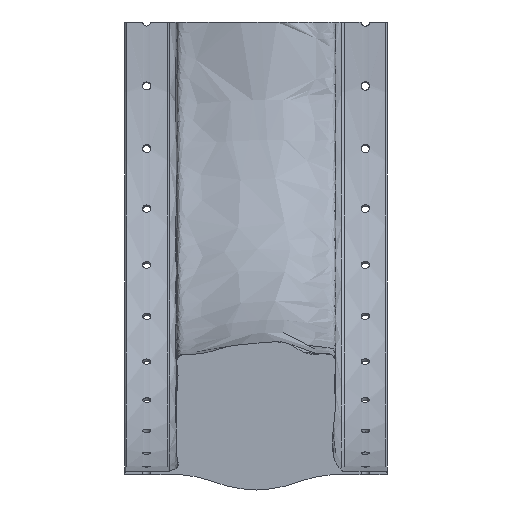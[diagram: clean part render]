
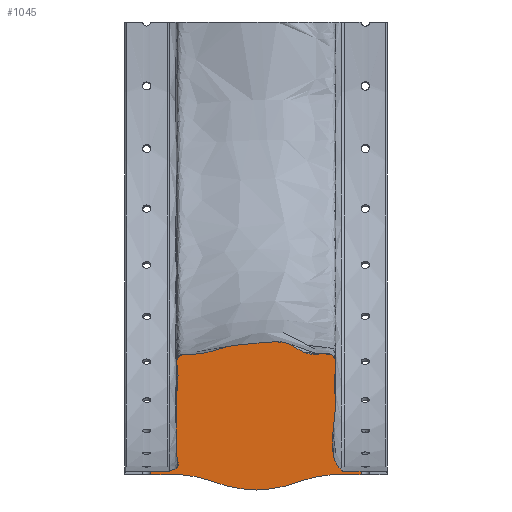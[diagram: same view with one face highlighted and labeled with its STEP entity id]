
A CAD part, front view. The second image highlights one B-rep face of the part: STEP entity #1045.
In plain terms, the highlighted planar face has unit normal (0, -1, 0).
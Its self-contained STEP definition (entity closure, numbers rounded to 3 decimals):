
#25=PLANE('',#1105);
#73=CIRCLE('',#1106,36.741);
#74=CIRCLE('',#1107,40.697);
#75=CIRCLE('',#1108,40.697);
#76=CIRCLE('',#1109,36.741);
#77=CIRCLE('',#1110,1.);
#78=CIRCLE('',#1111,1.);
#102=FACE_OUTER_BOUND('',#155,.T.);
#155=EDGE_LOOP('',(#724,#725,#726,#727,#728,#729,#730,#731,#732,#733,#734,
#735,#736));
#248=B_SPLINE_CURVE_WITH_KNOTS('',3,(#1837,#1838,#1839,#1840,#1841,#1842,
#1843,#1844,#1845,#1846,#1847,#1848,#1849,#1850,#1851,#1852,#1853,#1854,
#1855,#1856,#1857,#1858,#1859),.UNSPECIFIED.,.F.,.F.,(4,1,1,1,1,1,1,1,1,
1,1,1,1,1,1,1,1,1,1,1,4),(0.,0.289,0.546,1.255,
2.316,3.193,3.701,3.952,4.435,
5.128,6.153,7.172,7.49,7.896,
8.341,8.601,9.089,10.094,11.031,
12.088,12.147),.UNSPECIFIED.);
#316=LINE('',#1384,#360);
#320=LINE('',#1434,#364);
#322=LINE('',#1829,#366);
#323=LINE('',#1831,#367);
#324=LINE('',#1833,#368);
#325=LINE('',#1862,#369);
#360=VECTOR('',#1175,10.);
#364=VECTOR('',#1185,10.);
#366=VECTOR('',#1201,10.);
#367=VECTOR('',#1202,10.);
#368=VECTOR('',#1203,10.);
#369=VECTOR('',#1208,10.);
#405=VERTEX_POINT('',#1363);
#406=VERTEX_POINT('',#1383);
#412=VERTEX_POINT('',#1432);
#434=VERTEX_POINT('',#1820);
#435=VERTEX_POINT('',#1822);
#436=VERTEX_POINT('',#1824);
#437=VERTEX_POINT('',#1826);
#438=VERTEX_POINT('',#1828);
#439=VERTEX_POINT('',#1830);
#440=VERTEX_POINT('',#1832);
#441=VERTEX_POINT('',#1834);
#442=VERTEX_POINT('',#1836);
#443=VERTEX_POINT('',#1860);
#527=EDGE_CURVE('',#406,#405,#316,.T.);
#535=EDGE_CURVE('',#412,#405,#320,.T.);
#558=EDGE_CURVE('',#412,#434,#73,.T.);
#559=EDGE_CURVE('',#435,#434,#74,.T.);
#560=EDGE_CURVE('',#436,#435,#75,.T.);
#561=EDGE_CURVE('',#436,#437,#76,.T.);
#562=EDGE_CURVE('',#437,#438,#322,.T.);
#563=EDGE_CURVE('',#438,#439,#323,.T.);
#564=EDGE_CURVE('',#439,#440,#324,.T.);
#565=EDGE_CURVE('',#440,#441,#77,.T.);
#566=EDGE_CURVE('',#442,#441,#248,.T.);
#567=EDGE_CURVE('',#442,#443,#78,.T.);
#568=EDGE_CURVE('',#406,#443,#325,.T.);
#724=ORIENTED_EDGE('',*,*,#527,.T.);
#725=ORIENTED_EDGE('',*,*,#535,.F.);
#726=ORIENTED_EDGE('',*,*,#558,.T.);
#727=ORIENTED_EDGE('',*,*,#559,.F.);
#728=ORIENTED_EDGE('',*,*,#560,.F.);
#729=ORIENTED_EDGE('',*,*,#561,.T.);
#730=ORIENTED_EDGE('',*,*,#562,.T.);
#731=ORIENTED_EDGE('',*,*,#563,.T.);
#732=ORIENTED_EDGE('',*,*,#564,.T.);
#733=ORIENTED_EDGE('',*,*,#565,.T.);
#734=ORIENTED_EDGE('',*,*,#566,.F.);
#735=ORIENTED_EDGE('',*,*,#567,.T.);
#736=ORIENTED_EDGE('',*,*,#568,.F.);
#1045=ADVANCED_FACE('',(#102),#25,.F.);
#1105=AXIS2_PLACEMENT_3D('',#1819,#1191,#1192);
#1106=AXIS2_PLACEMENT_3D('',#1821,#1193,#1194);
#1107=AXIS2_PLACEMENT_3D('',#1823,#1195,#1196);
#1108=AXIS2_PLACEMENT_3D('',#1825,#1197,#1198);
#1109=AXIS2_PLACEMENT_3D('',#1827,#1199,#1200);
#1110=AXIS2_PLACEMENT_3D('',#1835,#1204,#1205);
#1111=AXIS2_PLACEMENT_3D('',#1861,#1206,#1207);
#1175=DIRECTION('',(0.,0.,-1.));
#1185=DIRECTION('',(-1.,0.,0.));
#1191=DIRECTION('center_axis',(0.,1.,0.));
#1192=DIRECTION('ref_axis',(1.,0.,0.));
#1193=DIRECTION('center_axis',(0.,1.,0.));
#1194=DIRECTION('ref_axis',(-0.068,0.,0.998));
#1195=DIRECTION('center_axis',(0.,1.,0.));
#1196=DIRECTION('ref_axis',(-0.024,0.,-1.));
#1197=DIRECTION('center_axis',(0.,1.,0.));
#1198=DIRECTION('ref_axis',(0.361,0.,-0.932));
#1199=DIRECTION('center_axis',(0.,1.,0.));
#1200=DIRECTION('ref_axis',(-0.332,0.,0.943));
#1201=DIRECTION('',(1.,0.,0.));
#1202=DIRECTION('',(0.,0.,1.));
#1203=DIRECTION('',(-1.,0.,0.));
#1204=DIRECTION('center_axis',(0.,1.,0.));
#1205=DIRECTION('ref_axis',(0.,0.,-1.));
#1206=DIRECTION('center_axis',(0.,1.,0.));
#1207=DIRECTION('ref_axis',(1.,0.,0.));
#1208=DIRECTION('',(1.,0.,0.));
#1363=CARTESIAN_POINT('',(3569.237,0.,-2125.946));
#1383=CARTESIAN_POINT('',(3569.237,0.,-2124.943));
#1384=CARTESIAN_POINT('',(3569.237,0.,-2124.943));
#1432=CARTESIAN_POINT('',(3573.363,0.,-2125.946));
#1434=CARTESIAN_POINT('',(3573.363,0.,-2125.946));
#1819=CARTESIAN_POINT('Origin',(3601.737,0.,-2107.384));
#1820=CARTESIAN_POINT('',(3588.05,0.,-2127.944));
#1821=CARTESIAN_POINT('Origin',(3575.855,0.,-2162.602));
#1822=CARTESIAN_POINT('',(3601.8,0.,-2130.685));
#1823=CARTESIAN_POINT('Origin',(3602.76,0.,-2089.999));
#1824=CARTESIAN_POINT('',(3615.55,0.,-2127.944));
#1825=CARTESIAN_POINT('Origin',(3600.839,0.,-2089.999));
#1826=CARTESIAN_POINT('',(3630.237,0.,-2125.946));
#1827=CARTESIAN_POINT('Origin',(3627.744,0.,-2162.602));
#1828=CARTESIAN_POINT('',(3634.187,0.,-2125.946));
#1829=CARTESIAN_POINT('',(3630.237,0.,-2125.946));
#1830=CARTESIAN_POINT('',(3634.187,0.,-2124.943));
#1831=CARTESIAN_POINT('',(3634.187,0.,-2128.943));
#1832=CARTESIAN_POINT('',(3628.987,0.,-2124.943));
#1833=CARTESIAN_POINT('',(3636.737,0.,-2124.943));
#1834=CARTESIAN_POINT('',(3628.201,0.,-2124.562));
#1835=CARTESIAN_POINT('Origin',(3628.987,0.,-2123.943));
#1836=CARTESIAN_POINT('',(3575.031,0.,-2124.782));
#1837=CARTESIAN_POINT('Ctrl Pts',(3575.031,0.,-2124.782));
#1838=CARTESIAN_POINT('Ctrl Pts',(3576.141,0.,-2124.477));
#1839=CARTESIAN_POINT('Ctrl Pts',(3578.236,0.,-2123.901));
#1840=CARTESIAN_POINT('Ctrl Pts',(3576.772,0.,-2119.101));
#1841=CARTESIAN_POINT('Ctrl Pts',(3577.641,0.,-2112.829));
#1842=CARTESIAN_POINT('Ctrl Pts',(3576.288,0.,-2103.464));
#1843=CARTESIAN_POINT('Ctrl Pts',(3578.333,0.,-2096.375));
#1844=CARTESIAN_POINT('Ctrl Pts',(3576.614,0.,-2089.074));
#1845=CARTESIAN_POINT('Ctrl Pts',(3581.459,0.,-2088.824));
#1846=CARTESIAN_POINT('Ctrl Pts',(3585.956,0.,-2088.767));
#1847=CARTESIAN_POINT('Ctrl Pts',(3593.021,0.,-2085.78));
#1848=CARTESIAN_POINT('Ctrl Pts',(3601.926,0.,-2085.713));
#1849=CARTESIAN_POINT('Ctrl Pts',(3610.517,0.,-2084.084));
#1850=CARTESIAN_POINT('Ctrl Pts',(3615.193,0.,-2087.687));
#1851=CARTESIAN_POINT('Ctrl Pts',(3618.988,0.,-2089.255));
#1852=CARTESIAN_POINT('Ctrl Pts',(3622.592,0.,-2088.212));
#1853=CARTESIAN_POINT('Ctrl Pts',(3626.951,0.,-2089.642));
#1854=CARTESIAN_POINT('Ctrl Pts',(3625.49,0.,-2096.732));
#1855=CARTESIAN_POINT('Ctrl Pts',(3626.834,0.,-2104.258));
#1856=CARTESIAN_POINT('Ctrl Pts',(3624.997,0.,-2113.964));
#1857=CARTESIAN_POINT('Ctrl Pts',(3625.265,0.,-2121.976));
#1858=CARTESIAN_POINT('Ctrl Pts',(3628.051,0.,-2124.434));
#1859=CARTESIAN_POINT('Ctrl Pts',(3628.201,0.,-2124.562));
#1860=CARTESIAN_POINT('',(3574.487,0.,-2124.943));
#1861=CARTESIAN_POINT('Origin',(3574.487,0.,-2123.943));
#1862=CARTESIAN_POINT('',(3561.737,0.,-2124.943));
